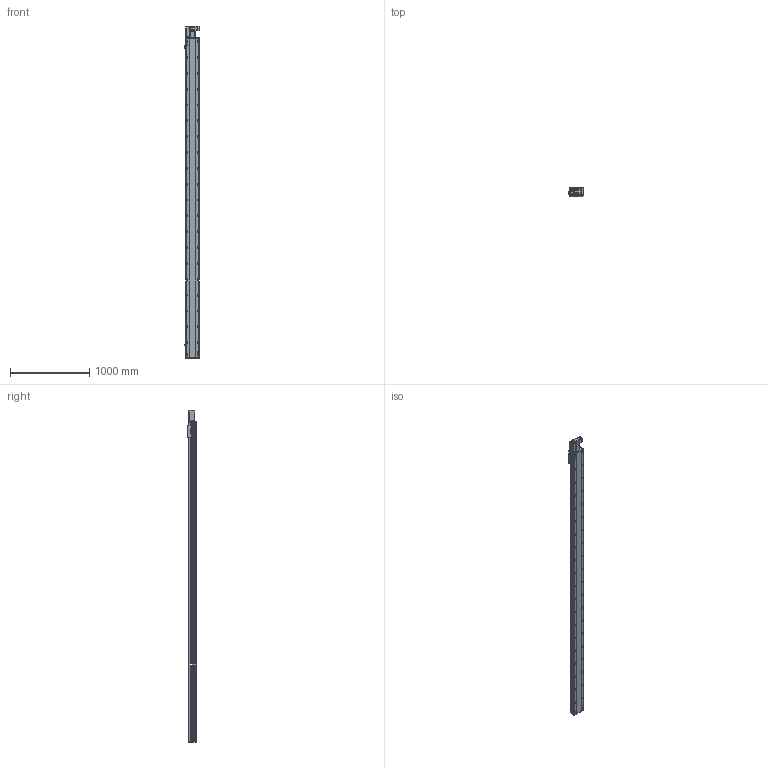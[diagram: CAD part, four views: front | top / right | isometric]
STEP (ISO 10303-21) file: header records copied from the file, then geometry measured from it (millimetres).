
FILE_DESCRIPTION (( 'STEP AP214' ), '1' );
FILE_NAME ('RTB17S-XX-3750-L-M40-C4.STEP', '2025-12-11T06:10:44', ( '' ), ( '' ), 'SwSTEP 2.0', 'SolidWorks 2018', '' );
FILE_SCHEMA (( 'AUTOMOTIVE_DESIGN' ));
Length unit declared in the file: millimetre
Products named in the file (14): RTB17S-L-007奻裔^RTB17S-XX-XX-L-M40-C4; RTB14-L-005P--轴承塑胶压盖^RTB17S-L-皮带座装配-400W_RTB17S-XX-XX-L-M40-C4; RTB14-L-018P^RTB17S-L-々湍釱蚾饜-400W_RTB17S-XX-XX-L-M40-C4; RTB14-L-017P^RTB17S-L-々湍釱蚾饜-400W_RTB17S-XX-XX-L-M40-C4; RTB17S-L-001耜醱啣^RTB17S-XX-XX-L-M40-C4; OMRON EE-SX672 传感器^RTB17S-XX-XX-L-M40-C4; RTB17-R-011菁釱^RTB17S-XX-XX-L-M40-C4; RTB17S-L-004佪裝蹟譫蟀諉釱^RTB17S-XX-XX-L-M40-C4; RMP17S-L-014-T20--々湍釱^RTB17S-L-々湍釱蚾饜-400W_RTB17S-XX-XX-L-M40-C4; RTB17S-XX-3750-L-M40-C4; RTH13-BL-012覜茼え俋离^RTB17S-XX-XX-L-M40-C4; RTB14-L-008-M20--萇儂啣^RTB17S-L-々湍釱蚾饜-400W_RTB17S-XX-XX-L-M40-C4; 400W侜督萇儂^RTB17S-XX-XX-L-M40-C4; RTB17S-L-々湍釱蚾饜-400W^RTB17S-XX-XX-L-M40-C4
Assembly tree (16 placements, depth 3):
  RTB17S-XX-3750-L-M40-C4
    RTB17-R-011菁釱^RTB17S-XX-XX-L-M40-C4
    RTB17S-L-007奻裔^RTB17S-XX-XX-L-M40-C4
    OMRON EE-SX672 传感器^RTB17S-XX-XX-L-M40-C4  x3
    RTB17S-L-001耜醱啣^RTB17S-XX-XX-L-M40-C4
    400W侜督萇儂^RTB17S-XX-XX-L-M40-C4
    RTB17S-L-004佪裝蹟譫蟀諉釱^RTB17S-XX-XX-L-M40-C4
    RTH13-BL-012覜茼え俋离^RTB17S-XX-XX-L-M40-C4
    RTB17S-L-々湍釱蚾饜-400W^RTB17S-XX-XX-L-M40-C4
      RMP17S-L-014-T20--々湍釱^RTB17S-L-々湍釱蚾饜-400W_RTB17S-XX-XX-L-M40-C4
      RTB14-L-005P--轴承塑胶压盖^RTB17S-L-皮带座装配-400W_RTB17S-XX-XX-L-M40-C4
      RTB14-L-008-M20--萇儂啣^RTB17S-L-々湍釱蚾饜-400W_RTB17S-XX-XX-L-M40-C4
      RTB14-L-017P^RTB17S-L-々湍釱蚾饜-400W_RTB17S-XX-XX-L-M40-C4  x2
      RTB14-L-018P^RTB17S-L-々湍釱蚾饜-400W_RTB17S-XX-XX-L-M40-C4
Bounding box: 186 x 108 x 4191 mm (x, y, z)
Volume: 34800353.1 mm3; surface area: 3943616.1 mm2
Topology: 15 solids, 15 shells, 2429 faces, 6843 edges, 4473 vertices
Faces by surface type: plane 1096, cylinder 885, bspline 301, cone 139, torus 8
Entity records: 73385 total; most frequent: CARTESIAN_POINT 21048, ORIENTED_EDGE 10530, DIRECTION 9656, EDGE_CURVE 5265, VERTEX_POINT 3461, AXIS2_PLACEMENT_3D 3391, VECTOR 2874, LINE 2874
